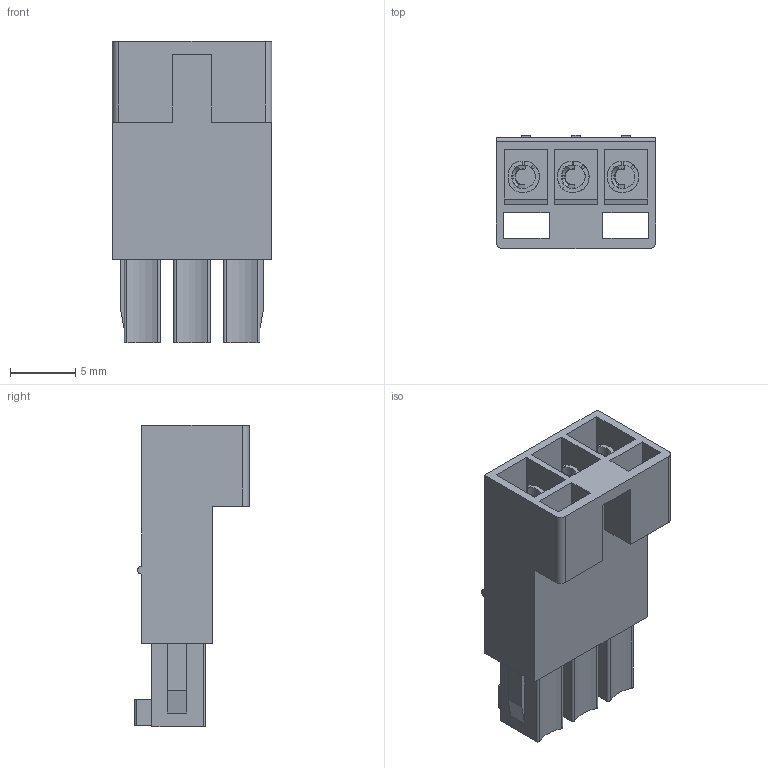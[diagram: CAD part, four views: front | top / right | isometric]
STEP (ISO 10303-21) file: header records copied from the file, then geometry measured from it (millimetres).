
FILE_DESCRIPTION((''),'2;1');
FILE_NAME('3PIN_SW0001','2019-06-03T',('zhenbing.lai'),(''),'CREO PARAMETRIC BY PTC INC, 2016260','CREO PARAMETRIC BY PTC INC, 2016260','');
FILE_SCHEMA(('CONFIG_CONTROL_DESIGN'));
Length unit declared in the file: millimetre
Products named in the file (1): 3PIN_SW0001
Bounding box: 12.22 x 8.74 x 23.1 mm (x, y, z)
Volume: 1047.3 mm3; surface area: 1863.2 mm2
Topology: 1 solids, 1 shells, 643 faces, 1712 edges, 1087 vertices
Faces by surface type: plane 283, cylinder 225, torus 90, bspline 24, cone 18, sphere 3
Entity records: 21454 total; most frequent: CARTESIAN_POINT 5486, ORIENTED_EDGE 3418, DIRECTION 3296, EDGE_CURVE 1709, AXIS2_PLACEMENT_3D 1199, VERTEX_POINT 1087, VECTOR 898, LINE 898
